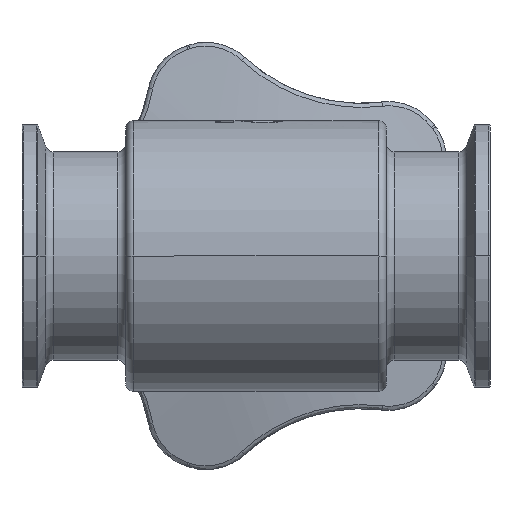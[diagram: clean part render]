
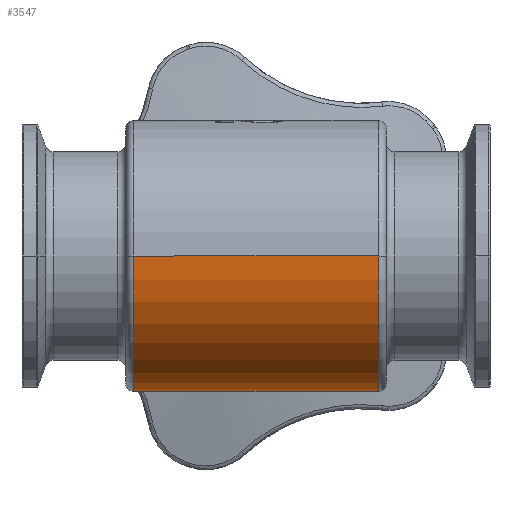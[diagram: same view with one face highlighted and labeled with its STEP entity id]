
A CAD part, front view. The second image highlights one B-rep face of the part: STEP entity #3547.
In plain terms, the highlighted cylindrical face has radius 26 mm (diameter 52 mm), a partial arc.
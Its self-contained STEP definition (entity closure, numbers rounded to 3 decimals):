
#345=DIRECTION('',(1.,0.,0.));
#346=VECTOR('',#345,4.5);
#347=CARTESIAN_POINT('',(-23.5,26.,0.));
#348=LINE('',#347,#346);
#371=DIRECTION('',(1.,0.,0.));
#372=VECTOR('',#371,4.5);
#373=CARTESIAN_POINT('',(19.,26.,0.));
#374=LINE('',#373,#372);
#1041=CARTESIAN_POINT('',(-23.5,0.,0.));
#1042=DIRECTION('',(-1.,0.,0.));
#1043=DIRECTION('',(0.,1.,0.));
#1044=AXIS2_PLACEMENT_3D('',#1041,#1042,#1043);
#1046=DIRECTION('',(1.,0.,0.));
#1047=VECTOR('',#1046,47.);
#1048=CARTESIAN_POINT('',(-23.5,-26.,0.));
#1049=LINE('',#1048,#1047);
#1050=CARTESIAN_POINT('',(23.5,0.,0.));
#1051=DIRECTION('',(1.,0.,0.));
#1052=DIRECTION('',(0.,-1.,0.));
#1053=AXIS2_PLACEMENT_3D('',#1050,#1051,#1052);
#1055=CARTESIAN_POINT('',(11.225,21.,-15.33));
#1056=CARTESIAN_POINT('',(11.986,21.407,-14.772));
#1057=CARTESIAN_POINT('',(13.388,22.213,-13.576));
#1058=CARTESIAN_POINT('',(15.196,23.354,-11.511));
#1059=CARTESIAN_POINT('',(16.624,24.312,-9.32));
#1060=CARTESIAN_POINT('',(17.714,25.073,-7.021));
#1061=CARTESIAN_POINT('',(18.464,25.61,-4.694));
#1062=CARTESIAN_POINT('',(18.908,25.932,-2.321));
#1063=CARTESIAN_POINT('',(19.,26.,-0.769));
#1064=CARTESIAN_POINT('',(19.,26.,0.));
#1066=CARTESIAN_POINT('',(-19.,26.,0.));
#1067=CARTESIAN_POINT('',(-19.,26.,-0.769));
#1068=CARTESIAN_POINT('',(-18.908,25.932,
-2.321));
#1069=CARTESIAN_POINT('',(-18.464,25.61,
-4.694));
#1070=CARTESIAN_POINT('',(-17.714,25.073,-7.021));
#1071=CARTESIAN_POINT('',(-16.624,24.312,
-9.319));
#1072=CARTESIAN_POINT('',(-15.196,23.354,
-11.511));
#1073=CARTESIAN_POINT('',(-13.388,22.213,
-13.576));
#1074=CARTESIAN_POINT('',(-11.986,21.407,
-14.772));
#1075=CARTESIAN_POINT('',(-11.225,21.,-15.33));
#1457=DIRECTION('',(1.,0.,0.));
#1458=VECTOR('',#1457,22.45);
#1459=CARTESIAN_POINT('',(-11.225,21.,-15.33));
#1460=LINE('',#1459,#1458);
#2566=VERTEX_POINT('',#1055);
#2567=VERTEX_POINT('',#1064);
#2569=VERTEX_POINT('',#1066);
#2570=VERTEX_POINT('',#1075);
#2617=CARTESIAN_POINT('',(23.5,-26.,0.));
#2618=CARTESIAN_POINT('',(23.5,26.,0.));
#2619=VERTEX_POINT('',#2617);
#2620=VERTEX_POINT('',#2618);
#2625=CARTESIAN_POINT('',(-23.5,26.,0.));
#2626=CARTESIAN_POINT('',(-23.5,-26.,0.));
#2627=VERTEX_POINT('',#2625);
#2628=VERTEX_POINT('',#2626);
#3528=CARTESIAN_POINT('',(-25.,0.,0.));
#3529=DIRECTION('',(1.,0.,0.));
#3530=DIRECTION('',(0.,-1.,0.));
#3531=AXIS2_PLACEMENT_3D('',#3528,#3529,#3530);
#3532=CYLINDRICAL_SURFACE('',#3531,26.);
#3533=ORIENTED_EDGE('',*,*,#3165,.T.);
#3534=ORIENTED_EDGE('',*,*,#3295,.T.);
#3536=ORIENTED_EDGE('',*,*,#3535,.T.);
#3537=ORIENTED_EDGE('',*,*,#3291,.F.);
#3539=ORIENTED_EDGE('',*,*,#3538,.F.);
#3541=ORIENTED_EDGE('',*,*,#3540,.F.);
#3543=ORIENTED_EDGE('',*,*,#3542,.F.);
#3544=ORIENTED_EDGE('',*,*,#3283,.F.);
#3545=EDGE_LOOP('',(#3533,#3534,#3536,#3537,#3539,#3541,#3543,#3544));
#3546=FACE_OUTER_BOUND('',#3545,.F.);
#1045=CIRCLE('',#1044,26.);
#1054=CIRCLE('',#1053,26.);
#1065=B_SPLINE_CURVE_WITH_KNOTS('',3,(#1055,#1056,#1057,#1058,#1059,#1060,#1061,
#1062,#1063,#1064),.UNSPECIFIED.,.F.,.F.,(4,1,1,1,1,1,1,4),(0.,
0.143,0.286,0.429,0.571,
0.714,0.857,1.),.UNSPECIFIED.);
#1076=B_SPLINE_CURVE_WITH_KNOTS('',3,(#1066,#1067,#1068,#1069,#1070,#1071,#1072,
#1073,#1074,#1075),.UNSPECIFIED.,.F.,.F.,(4,1,1,1,1,1,1,4),(0.,
0.143,0.286,0.429,0.571,
0.714,0.857,1.),.UNSPECIFIED.);
#3165=EDGE_CURVE('',#2627,#2628,#1045,.T.);
#3283=EDGE_CURVE('',#2627,#2569,#348,.T.);
#3291=EDGE_CURVE('',#2567,#2620,#374,.T.);
#3295=EDGE_CURVE('',#2628,#2619,#1049,.T.);
#3535=EDGE_CURVE('',#2619,#2620,#1054,.T.);
#3538=EDGE_CURVE('',#2566,#2567,#1065,.T.);
#3540=EDGE_CURVE('',#2570,#2566,#1460,.T.);
#3542=EDGE_CURVE('',#2569,#2570,#1076,.T.);
#3547=ADVANCED_FACE('',(#3546),#3532,.T.);
